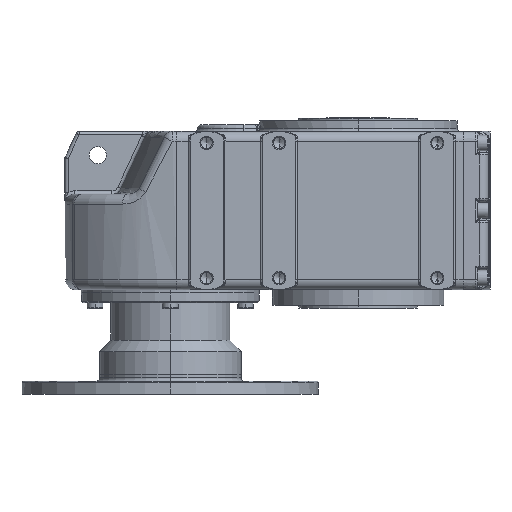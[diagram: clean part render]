
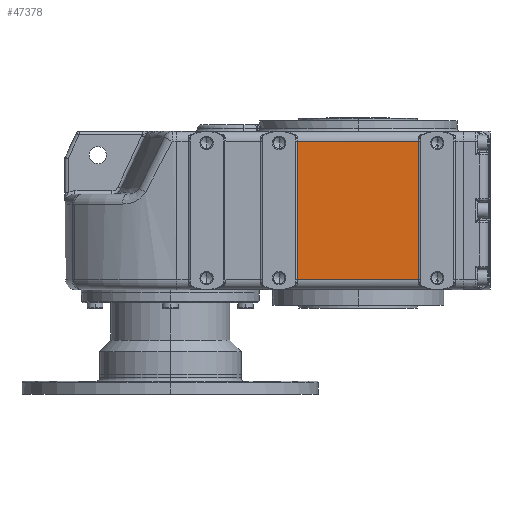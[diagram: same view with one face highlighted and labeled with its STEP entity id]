
A CAD part, left-side view. The second image highlights one B-rep face of the part: STEP entity #47378.
In plain terms, the highlighted planar face has unit normal (-1, 0, 0).
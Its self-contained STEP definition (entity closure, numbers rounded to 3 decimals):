
#47199 = EDGE_CURVE ( 'NONE', #47200, #47201, #60935, .T. ) ;
#47200 = VERTEX_POINT ( 'NONE', #60928 ) ;
#47201 = VERTEX_POINT ( 'NONE', #60925 ) ;
#47294 = VERTEX_POINT ( 'NONE', #61742 ) ;
#47296 = EDGE_CURVE ( 'NONE', #47297, #47294, #61863, .T. ) ;
#47297 = VERTEX_POINT ( 'NONE', #61844 ) ;
#47378 = ADVANCED_FACE ( 'NONE', ( #62373 ), #62369, .F. ) ;
#47379 = EDGE_LOOP ( 'NONE', ( #47380, #47381, #47383, #47384 ) ) ;
#47380 = ORIENTED_EDGE ( 'NONE', *, *, #47296, .T. ) ;
#47381 = ORIENTED_EDGE ( 'NONE', *, *, #47382, .T. ) ;
#47382 = EDGE_CURVE ( 'NONE', #47294, #47200, #62357, .T. ) ;
#47383 = ORIENTED_EDGE ( 'NONE', *, *, #47199, .T. ) ;
#47384 = ORIENTED_EDGE ( 'NONE', *, *, #47385, .T. ) ;
#47385 = EDGE_CURVE ( 'NONE', #47201, #47297, #62506, .T. ) ;
#60925 = CARTESIAN_POINT ( 'NONE',  ( -197.5, 92.042, 225. ) ) ;
#60928 = CARTESIAN_POINT ( 'NONE',  ( -197.5, -92.042, 225. ) ) ;
#60930 = DIRECTION ( 'NONE',  ( 0., 1., 0. ) ) ;
#60932 = VECTOR ( 'NONE', #60930, 1000. ) ;
#60934 = CARTESIAN_POINT ( 'NONE',  ( -197.5, 275., 225. ) ) ;
#60935 = LINE ( 'NONE', #60934, #60932 ) ;
#61742 = CARTESIAN_POINT ( 'NONE',  ( -197.5, -92.042, 15. ) ) ;
#61844 = CARTESIAN_POINT ( 'NONE',  ( -197.5, 92.042, 15. ) ) ;
#61846 = DIRECTION ( 'NONE',  ( 0., -1., 0. ) ) ;
#61848 = VECTOR ( 'NONE', #61846, 1000. ) ;
#61850 = CARTESIAN_POINT ( 'NONE',  ( -197.5, 275., 15. ) ) ;
#61863 = LINE ( 'NONE', #61850, #61848 ) ;
#62357 = LINE ( 'NONE', #62514, #62512 ) ;
#62362 = DIRECTION ( 'NONE',  ( 0., 1., 0. ) ) ;
#62364 = DIRECTION ( 'NONE',  ( 1., 0., 0. ) ) ;
#62366 = CARTESIAN_POINT ( 'NONE',  ( -197.5, 275., 240. ) ) ;
#62368 = AXIS2_PLACEMENT_3D ( 'NONE', #62366, #62364, #62362 ) ;
#62369 = PLANE ( 'NONE',  #62368 ) ;
#62373 = FACE_OUTER_BOUND ( 'NONE', #47379, .T. ) ;
#62501 = DIRECTION ( 'NONE',  ( 0., 0., -1. ) ) ;
#62503 = VECTOR ( 'NONE', #62501, 1000. ) ;
#62505 = CARTESIAN_POINT ( 'NONE',  ( -197.5, 92.042, 240. ) ) ;
#62506 = LINE ( 'NONE', #62505, #62503 ) ;
#62511 = DIRECTION ( 'NONE',  ( 0., 0., 1. ) ) ;
#62512 = VECTOR ( 'NONE', #62511, 1000. ) ;
#62514 = CARTESIAN_POINT ( 'NONE',  ( -197.5, -92.042, 240. ) ) ;
